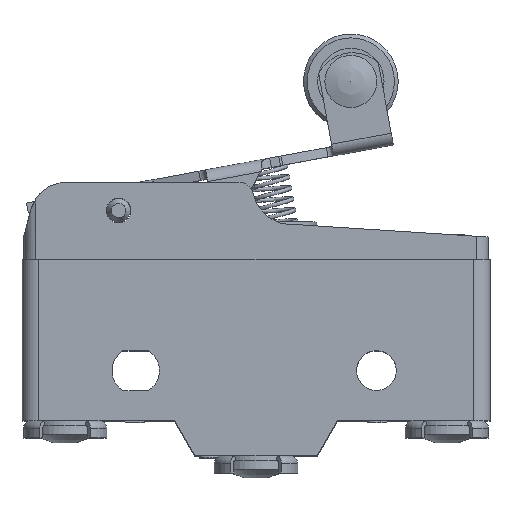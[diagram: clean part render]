
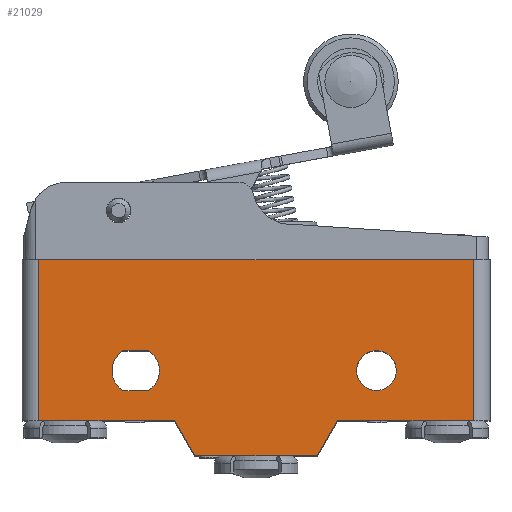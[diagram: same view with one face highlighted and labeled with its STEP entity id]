
A CAD part, top view. The second image highlights one B-rep face of the part: STEP entity #21029.
In plain terms, the highlighted planar face has unit normal (0, 0, 1).
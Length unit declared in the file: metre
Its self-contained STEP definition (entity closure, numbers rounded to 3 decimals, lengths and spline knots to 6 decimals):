
#18312=CARTESIAN_POINT('',(0.007822,-0.007756,0.05825));
#18313=VERTEX_POINT('',#18312);
#18316=CARTESIAN_POINT('',(0.005686,-0.011456,0.05825));
#18317=DIRECTION('',(0.5,0.866,0.));
#18318=VECTOR('',#18317,1.);
#18319=LINE('',#18316,#18318);
#18320=CARTESIAN_POINT('',(0.005686,-0.011456,0.05825));
#18321=VERTEX_POINT('',#18320);
#18322=EDGE_CURVE('',#18321,#18313,#18319,.T.);
#19098=CARTESIAN_POINT('',(-0.007242,-0.011456,0.05825));
#19099=DIRECTION('',(1.,0.,0.));
#19100=VECTOR('',#19099,1.);
#19101=LINE('',#19098,#19100);
#19102=CARTESIAN_POINT('',(-0.007242,-0.011456,0.05825));
#19103=VERTEX_POINT('',#19102);
#19104=EDGE_CURVE('',#19103,#18321,#19101,.T.);
#19197=CARTESIAN_POINT('',(-0.009378,-0.007756,0.05825));
#19198=DIRECTION('',(0.5,-0.866,0.));
#19199=VECTOR('',#19198,1.);
#19200=LINE('',#19197,#19199);
#19201=CARTESIAN_POINT('',(-0.009378,-0.007756,0.05825));
#19202=VERTEX_POINT('',#19201);
#19203=EDGE_CURVE('',#19202,#19103,#19200,.T.);
#20638=CARTESIAN_POINT('',(-0.025478,-0.007756,0.05825));
#20639=DIRECTION('',(1.,0.,0.));
#20640=VECTOR('',#20639,1.);
#20641=LINE('',#20638,#20640);
#20642=CARTESIAN_POINT('',(-0.023728,-0.007756,0.05825));
#20643=VERTEX_POINT('',#20642);
#20644=EDGE_CURVE('',#20643,#19202,#20641,.T.);
#20754=CARTESIAN_POINT('',(-0.023728,0.009244,0.05825));
#20755=VERTEX_POINT('',#20754);
#20760=CARTESIAN_POINT('',(-0.023728,-0.003156,0.05825));
#20761=DIRECTION('',(0.,-1.,0.));
#20762=VECTOR('',#20761,1.);
#20763=LINE('',#20760,#20762);
#20764=EDGE_CURVE('',#20755,#20643,#20763,.T.);
#20787=CARTESIAN_POINT('',(0.022172,-0.007756,0.05825));
#20788=VERTEX_POINT('',#20787);
#20806=CARTESIAN_POINT('',(0.022172,0.009244,0.05825));
#20807=VERTEX_POINT('',#20806);
#20810=CARTESIAN_POINT('',(0.022172,-0.003156,0.05825));
#20811=DIRECTION('',(0.,1.,0.));
#20812=VECTOR('',#20811,1.);
#20813=LINE('',#20810,#20812);
#20814=EDGE_CURVE('',#20788,#20807,#20813,.T.);
#20847=CARTESIAN_POINT('',(-0.014834,-0.000356,0.05825));
#20848=VERTEX_POINT('',#20847);
#20851=CARTESIAN_POINT('',(-0.013478,-0.002456,0.05825));
#20852=DIRECTION('',(0.,0.,1.));
#20853=DIRECTION('',(1.,0.,0.));
#20854=AXIS2_PLACEMENT_3D('',#20851,#20852,#20853);
#20855=CIRCLE('',#20854,0.0025);
#20856=CARTESIAN_POINT('',(-0.014834,-0.004556,0.05825));
#20857=VERTEX_POINT('',#20856);
#20858=EDGE_CURVE('',#20848,#20857,#20855,.T.);
#20891=CARTESIAN_POINT('',(-0.012121,-0.004556,0.05825));
#20892=DIRECTION('',(1.,0.,0.));
#20893=VECTOR('',#20892,1.);
#20894=LINE('',#20891,#20893);
#20895=CARTESIAN_POINT('',(-0.012121,-0.004556,0.05825));
#20896=VERTEX_POINT('',#20895);
#20897=EDGE_CURVE('',#20857,#20896,#20894,.T.);
#20921=CARTESIAN_POINT('',(-0.013478,-0.002456,0.05825));
#20922=DIRECTION('',(0.,0.,1.));
#20923=DIRECTION('',(1.,0.,0.));
#20924=AXIS2_PLACEMENT_3D('',#20921,#20922,#20923);
#20925=CIRCLE('',#20924,0.0025);
#20926=CARTESIAN_POINT('',(-0.012121,-0.000356,0.05825));
#20927=VERTEX_POINT('',#20926);
#20928=EDGE_CURVE('',#20896,#20927,#20925,.T.);
#20963=CARTESIAN_POINT('',(-0.012121,-0.000356,0.05825));
#20964=DIRECTION('',(-1.,0.,0.));
#20965=VECTOR('',#20964,1.);
#20966=LINE('',#20963,#20965);
#20967=EDGE_CURVE('',#20927,#20848,#20966,.T.);
#20987=CARTESIAN_POINT('',(0.012562,-0.003156,0.05825));
#20988=DIRECTION('',(0.,0.,-1.));
#20989=DIRECTION('',(-1.,0.,0.));
#20990=AXIS2_PLACEMENT_3D('',#20987,#20988,#20989);
#20991=PLANE('',#20990);
#20992=ORIENTED_EDGE('',*,*,#20967,.F.);
#20993=ORIENTED_EDGE('',*,*,#20928,.F.);
#20994=ORIENTED_EDGE('',*,*,#20897,.F.);
#20995=ORIENTED_EDGE('',*,*,#20858,.F.);
#20996=EDGE_LOOP('',(#20992,#20993,#20994,#20995));
#20997=FACE_BOUND('',#20996,.T.);
#20998=CARTESIAN_POINT('',(0.011922,-0.002456,0.05825));
#20999=DIRECTION('',(0.,0.,1.));
#21000=DIRECTION('',(1.,0.,0.));
#21001=AXIS2_PLACEMENT_3D('',#20998,#20999,#21000);
#21002=CIRCLE('',#21001,0.0021);
#21003=CARTESIAN_POINT('',(0.009822,-0.002456,0.05825));
#21004=VERTEX_POINT('',#21003);
#21005=EDGE_CURVE('',#21004,#21004,#21002,.T.);
#21006=ORIENTED_EDGE('',*,*,#21005,.F.);
#21007=EDGE_LOOP('',(#21006));
#21008=FACE_BOUND('',#21007,.T.);
#21009=CARTESIAN_POINT('',(0.007822,-0.007756,0.05825));
#21010=DIRECTION('',(1.,0.,0.));
#21011=VECTOR('',#21010,1.);
#21012=LINE('',#21009,#21011);
#21013=EDGE_CURVE('',#18313,#20788,#21012,.T.);
#21014=ORIENTED_EDGE('',*,*,#21013,.T.);
#21015=ORIENTED_EDGE('',*,*,#20814,.T.);
#21016=CARTESIAN_POINT('',(0.023922,0.009244,0.05825));
#21017=DIRECTION('',(-1.,0.,0.));
#21018=VECTOR('',#21017,1.);
#21019=LINE('',#21016,#21018);
#21020=EDGE_CURVE('',#20807,#20755,#21019,.T.);
#21021=ORIENTED_EDGE('',*,*,#21020,.T.);
#21022=ORIENTED_EDGE('',*,*,#20764,.T.);
#21023=ORIENTED_EDGE('',*,*,#20644,.T.);
#21024=ORIENTED_EDGE('',*,*,#19203,.T.);
#21025=ORIENTED_EDGE('',*,*,#19104,.T.);
#21026=ORIENTED_EDGE('',*,*,#18322,.T.);
#21027=EDGE_LOOP('',(#21014,#21015,#21021,#21022,#21023,#21024,#21025,#21026));
#21028=FACE_BOUND('',#21027,.T.);
#21029=ADVANCED_FACE('',(#20997,#21008,#21028),#20991,.F.);
